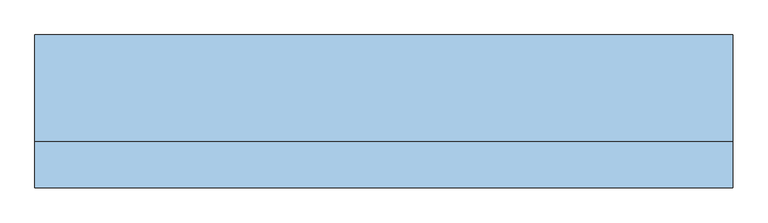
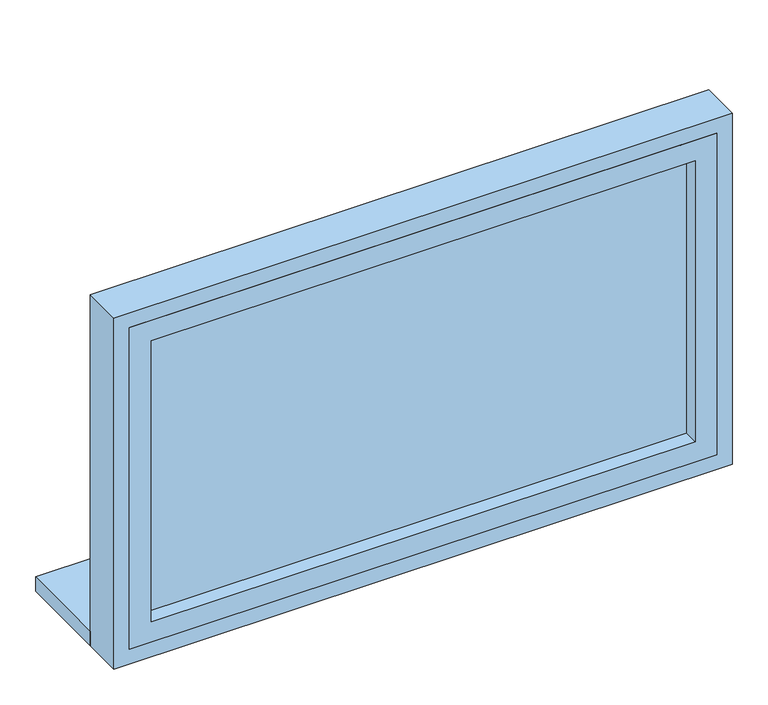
"""IFC4 building model written with IfcOpenShell, lengths in millimetres: window geometry, AT Fenster 1-flügelig drehkipp : 1000/600 Kellerfenster."""

from ifc_helpers import new_model, si_unit, frame, origin, place, context, project, spatial, polyline, outline, extrude, source, transform, mapped, element, save


def window_043d948e(model_context):
    return source(origin(), model_context, "Body", "SweptSolid", [
        extrude(outline(polyline([(500.0, 26.9623738), (-500.0, 26.9623738), (-500.0, 180.0), (500.0, 180.0), (500.0, 26.9623738)])), frame((0.0, 0.0, 1000.0), z_axis=(0.0, 0.0, 1.0), x_axis=(1.0, 0.0, 0.0)), (0.0, 0.0, 1.0), 25.0),
        extrude(outline(polyline([(1575.0, -475.0), (1025.0, -475.0), (1025.0, 475.0), (1575.0, 475.0), (1575.0, -475.0)]), holes=[polyline([(1540.0, -440.0), (1540.0, 440.0), (1060.0, 440.0), (1060.0, -440.0), (1540.0, -440.0)])]), frame((0.0, -39.0188131, 0.0), z_axis=(0.0, 1.0, 0.0), x_axis=(0.0, 0.0, 1.0)), (0.0, 0.0, 1.0), 50.5),
        extrude(outline(polyline([(1000.0, -500.0), (1000.0, 500.0), (1600.0, 500.0), (1600.0, -500.0), (1000.0, -500.0)]), holes=[polyline([(1025.0, -475.0), (1575.0, -475.0), (1575.0, 475.0), (1025.0, 475.0), (1025.0, -475.0)])]), frame((0.0, -39.0188131, 0.0), z_axis=(0.0, 1.0, 0.0), x_axis=(0.0, 0.0, 1.0)), (0.0, 0.0, 1.0), 65.9811869),
        extrude(outline(polyline([(440.0, -15.5188131), (-440.0, -15.5188131), (-440.0, -13.5188131), (440.0, -13.5188131), (440.0, -15.5188131)])), frame((0.0, 0.0, 1060.0), z_axis=(0.0, 0.0, 1.0), x_axis=(1.0, 0.0, 0.0)), (0.0, 0.0, 1.0), 480.0),
    ])


if __name__ == "__main__":
    model = new_model("IFC4")
    model_context = context("Model", 3, world=origin())
    ifc_project = project(units=[si_unit("LENGTHUNIT", "METRE", prefix="MILLI")], contexts=[model_context])
    site = spatial("IfcSite", under=ifc_project)
    building = spatial("IfcBuilding", under=site)
    placement = place(None, origin())
    window_shape = window_043d948e(model_context)
    element("IfcWindow", 1, ObjectType="AT Fenster 1-flügelig drehkipp : 1000/600 Kellerfenster", at=placement, inside=building, context=model_context, shape_type="MappedRepresentation", body=[
        mapped(window_shape, transform((0.0, 0.0, 0.0), x_axis=(1.0, 0.0, 0.0), y_axis=(0.0, 1.0, 0.0), z_axis=(0.0, 0.0, 1.0))),
    ])
    save(model, "model.ifc")
